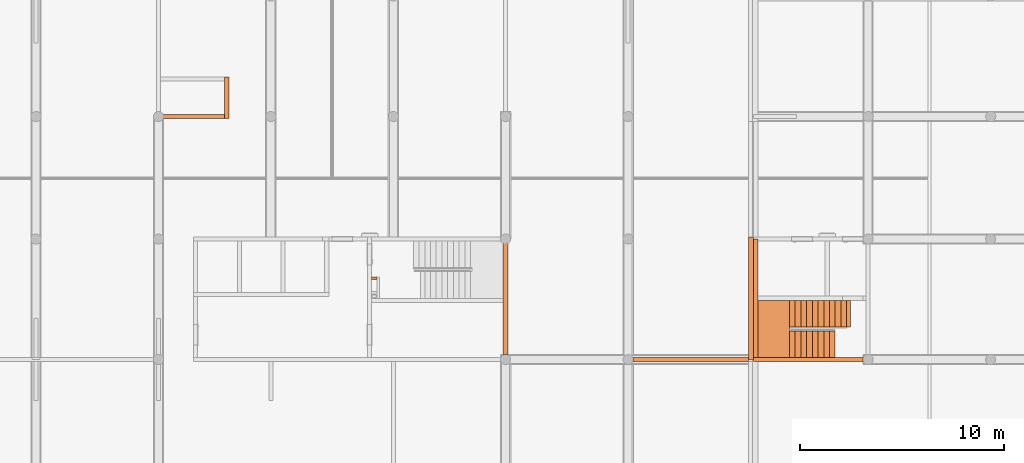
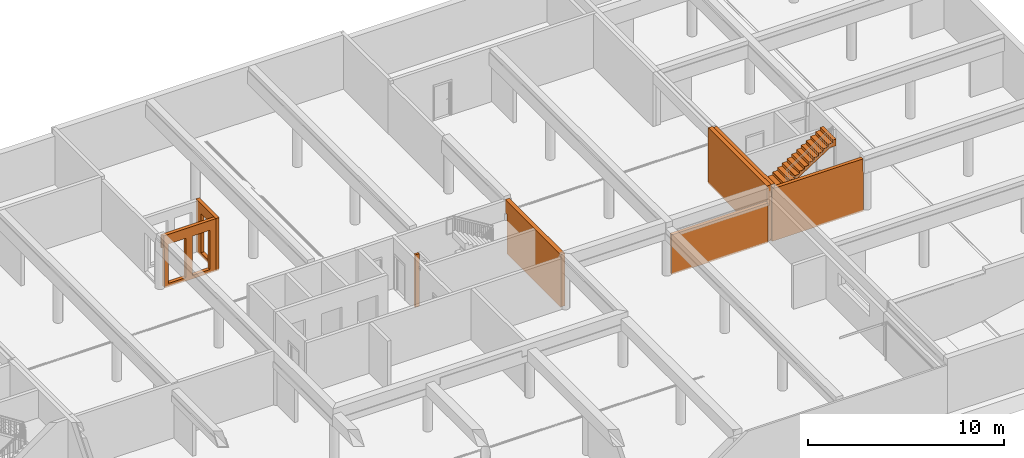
# One storey, part 23 of 25: 9 proxies, 3 openings.
"""IFC2X3 building model written with IfcOpenShell, lengths in millimetres."""

from ifc_helpers import new_model, entity, si_unit, converted_unit, derived_unit, money_unit, direction, frame, origin_with_axes, origin_2d_with_axis, place, context, subcontext, project, spatial, rectangle, extrude, faceted_brep, material, material_list, type_object, element, save


model = new_model("IFC2X3")

# Units and contexts
model_context = context("Model", 3, precision=0.01, world=origin_with_axes(), true_north=direction((0.34421633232, 0.938890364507)))
body_context = subcontext(model_context, "Body", "Model", "MODEL_VIEW")
ifc_project = project(units=[si_unit("LENGTHUNIT", "METRE", prefix="MILLI"), si_unit("AREAUNIT", "SQUARE_METRE"), si_unit("VOLUMEUNIT", "CUBIC_METRE"), converted_unit("PLANEANGLEUNIT", "DEGREE", entity("IfcPlaneAngleMeasure", 0.0174532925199), si_unit("PLANEANGLEUNIT", "RADIAN"), dimensions=[0, 0, 0, 0, 0, 0, 0]), si_unit("SOLIDANGLEUNIT", "STERADIAN"), money_unit("USD"), converted_unit("TIMEUNIT", "Year", entity("IfcTimeMeasure", 31556926.0), si_unit("TIMEUNIT", "SECOND"), dimensions=[0, 0, 1, 0, 0, 0, 0]), si_unit("MASSUNIT", "GRAM", prefix="KILO"), si_unit("THERMODYNAMICTEMPERATUREUNIT", "DEGREE_CELSIUS"), si_unit("LUMINOUSINTENSITYUNIT", "LUMEN"), si_unit("ENERGYUNIT", "JOULE", prefix="MEGA"), derived_unit("THERMALCONDUCTANCEUNIT", [(si_unit("POWERUNIT", "WATT"), 1), (si_unit("LENGTHUNIT", "METRE"), -1), (si_unit("THERMODYNAMICTEMPERATUREUNIT", "KELVIN"), -1)]), derived_unit("SPECIFICHEATCAPACITYUNIT", [(si_unit("ENERGYUNIT", "JOULE"), 1), (si_unit("MASSUNIT", "GRAM", prefix="KILO"), -1), (si_unit("THERMODYNAMICTEMPERATUREUNIT", "KELVIN"), -1)]), derived_unit("MASSDENSITYUNIT", [(si_unit("MASSUNIT", "GRAM", prefix="KILO"), 1), (si_unit("VOLUMEUNIT", "CUBIC_METRE"), -1)])], contexts=[model_context])

# Site, building, storey
site_placement = place(None, origin_with_axes())
site = spatial("IfcSite", under=ifc_project, at=site_placement, Name="USTRONIE MORSKIE", CompositionType="ELEMENT")
building_placement = place(site_placement, origin_with_axes())
building = spatial("IfcBuilding", under=site, at=building_placement, Name="Budynek", CompositionType="ELEMENT")
storey_placement = place(building_placement, frame((0.0, 0.0, -3600.0), z_axis=(0.0, 0.0, 1.0), x_axis=(1.0, 0.0, 0.0)))
storey = spatial("IfcBuildingStorey", under=building, at=storey_placement, Name="GARAZ", CompositionType="ELEMENT", Elevation=-3600.0)

# Proxies
ifc_material_1 = material(Name="Beton konstrukcyjny 01")
building_element_proxy_type_1 = type_object("IfcBuildingElementProxyType", Name="Beton konstrukcyjny 01 200", PredefinedType="NOTDEFINED")
proxy_1_placement = place(storey_placement, frame((408317.920919, 726901.199036, -100.0), z_axis=(0.0, 0.0, 1.0), x_axis=(-1.0, 0.0, 0.0)))
element("IfcBuildingElementProxy", 1, at=proxy_1_placement, inside=storey, type_object=building_element_proxy_type_1, material=ifc_material_1, Name="SW-01", context=body_context, shape_type="Brep", body=[
    faceted_brep([(5771.8359576, -100.0, 2470.00030619), (5765.0768448, -85.5050358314, 2470.00030619), (5753.79806175, -43.4120444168, 2470.00030619), (5750.0, 0.0, 2470.00030619), (5753.79806175, 43.4120444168, 2470.00030619), (5765.0768448, 85.5050358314, 2470.00030619), (5771.8359576, 100.0, 2470.00030619), (100.0, 100.0, 2470.0), (100.0, 0.0, 2470.0), (100.0, -100.0, 2470.0), (5765.0768448, -85.5050358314, 0.0), (5771.8359576, -100.0, 0.0), (5753.79806175, -43.4120444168, 0.0), (5750.0, 0.0, 0.0), (5753.79806175, 43.4120444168, 0.0), (5765.0768448, 85.5050358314, 0.0), (5771.8359576, 100.0, 0.0), (100.0, 100.0, 0.0), (100.0, 0.0, 0.0), (100.0, -100.0, 0.0)], [[[0, 1, 2, 3, 4, 5, 6, 7, 8, 9]], [[10, 1, 0, 11]], [[12, 2, 1, 10]], [[13, 3, 2, 12]], [[14, 4, 3, 13]], [[15, 5, 4, 14]], [[16, 6, 5, 15]], [[7, 6, 16, 17]], [[7, 17, 18, 8]], [[9, 8, 18, 19]], [[19, 11, 0, 9]], [[12, 10, 11, 19, 18, 17, 16, 15, 14, 13]]]),
])
proxy_2_placement = place(storey_placement, frame((414067.920919, 726901.199036, -100.0), z_axis=(0.0, 0.0, 1.0), x_axis=(-1.0, 0.0, 0.0)))
element("IfcBuildingElementProxy", 2, at=proxy_2_placement, inside=storey, type_object=building_element_proxy_type_1, material=ifc_material_1, Name="SW-01", context=body_context, shape_type="Brep", body=[
    faceted_brep([(250.0, 0.0, 2470.00030619), (246.201938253, -43.4120444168, 2470.00030619), (234.923155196, -85.5050358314, 2470.00030619), (228.1640424, -100.0, 2470.00030619), (249.999964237, -100.0, 2470.00030619), (246.201938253, -43.4120444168, 0.0), (250.0, 0.0, 0.0), (234.923155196, -85.5050358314, 0.0), (228.1640424, -100.0, 0.0), (5600.0, -100.0, 0.0), (5600.0, -100.0, 3270.0), (249.999964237, -100.0, 3270.0), (249.999964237, 100.0, 3270.0), (249.999964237, 100.0, 2470.00030619), (246.201938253, 43.4120444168, 2470.00030619), (246.201938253, 43.4120444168, 0.0), (234.923155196, 85.5050358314, 0.0), (228.1640424, 100.0, 0.0), (5600.0, 100.0, 0.0), (5600.0, 100.0, 3270.0), (228.1640424, 100.0, 2470.00030619), (234.923155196, 85.5050358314, 2470.00030619)], [[[0, 1, 2, 3, 4]], [[5, 1, 0, 6]], [[7, 2, 1, 5]], [[7, 8, 3, 2]], [[4, 3, 8, 9, 10, 11]], [[12, 13, 0, 4, 11]], [[6, 0, 14, 15]], [[15, 16, 17, 18, 9, 8, 7, 5, 6]], [[10, 9, 18, 19]], [[10, 19, 12, 11]], [[18, 17, 20, 13, 12, 19]], [[21, 14, 0, 13, 20]], [[15, 14, 21, 16]], [[16, 21, 20, 17]]]),
])

# Proxy, opening
proxy_3_placement = place(storey_placement, frame((382557.920919, 740541.199036, -100.0), z_axis=(0.0, 0.0, 1.0), x_axis=(0.0, -1.0, 0.0)))
proxy_3 = element("IfcBuildingElementProxy", 3, at=proxy_3_placement, inside=storey, type_object=building_element_proxy_type_1, material=ifc_material_1, Name="SW-01", context=body_context, shape_type="Brep", body=[
    faceted_brep([(1840.0, 0.0, 3270.0), (1840.0, 200.0, 3270.0), (-200.0, 200.0, 3270.0), (-200.0, 0.0, 3270.0), (1840.0, 0.0, 0.0), (1840.0, 200.0, 0.0), (-200.0, 200.0, 0.0), (-200.0, 0.0, 0.0)], [[[0, 1, 2, 3]], [[1, 0, 4, 5]], [[1, 5, 6, 2]], [[7, 3, 2, 6]], [[4, 0, 3, 7]], [[5, 4, 7, 6]]]),
])
opening_1_placement = place(proxy_3_placement, frame((820.0, 0.0, 220.0), z_axis=(0.0, 0.0, 1.0), x_axis=(1.0, 0.0, 0.0)))
element("IfcOpeningElement", 4, at=opening_1_placement, cuts=proxy_3, Name="xx", context=body_context, shape_type="SweptSolid", body=[
    extrude(rectangle(XDim=1020.0, YDim=2450.0, at=origin_2d_with_axis()), frame((0.0, 200.0, 1225.0), z_axis=(0.0, -1.0, 0.0), x_axis=(1.0, 0.0, 0.0)), (0.0, 0.0, -1.0), 200.0),
    extrude(rectangle(XDim=1020.0, YDim=2450.0, at=origin_2d_with_axis()), frame((0.0, 200.0, 1225.0), z_axis=(0.0, 1.0, 0.0), x_axis=(1.0, 0.0, 0.0)), (0.0, 0.0, -1.0), 200.0),
])

# Proxy
proxy_4_placement = place(storey_placement, frame((408567.920919, 726901.199036, -100.0), z_axis=(0.0, 0.0, 1.0), x_axis=(0.0, 1.0, 0.0)))
element("IfcBuildingElementProxy", 5, at=proxy_4_placement, inside=storey, type_object=building_element_proxy_type_1, material=ifc_material_1, Name="SW-01", context=body_context, shape_type="Brep", body=[
    faceted_brep([(100.0, -100.0, 3270.0), (100.0, -100.0, 0.0), (5800.0, -100.0, 0.0), (5800.0, -100.0, 3270.0), (5900.0, -100.0, 3270.0), (5900.0, -100.0, 3470.0), (0.0, -100.0, 3470.0), (0.0, -100.0, 3270.0), (100.0, 100.0, 3270.0), (100.0, 100.0, 0.0), (5800.0, 100.0, 0.0), (5800.0, 100.0, 3270.0), (5900.0, 100.0, 3270.0), (5900.0, 100.0, 3470.0), (0.0, 100.0, 3470.0), (0.0, 100.0, 3270.0)], [[[0, 1, 2, 3, 4, 5, 6, 7]], [[8, 9, 1, 0]], [[1, 9, 10, 2]], [[10, 11, 3, 2]], [[3, 11, 12, 4]], [[13, 5, 4, 12]], [[13, 14, 6, 5]], [[6, 14, 15, 7]], [[15, 8, 0, 7]], [[13, 12, 11, 10, 9, 8, 15, 14]]]),
])

# Proxy, openings
proxy_5_placement = place(storey_placement, frame((382557.920919, 738901.199036, -100.0), z_axis=(0.0, 0.0, 1.0), x_axis=(-1.0, 0.0, 0.0)))
proxy_5 = element("IfcBuildingElementProxy", 6, at=proxy_5_placement, inside=storey, type_object=building_element_proxy_type_1, material=ifc_material_1, Name="SW-02", context=body_context, shape_type="Brep", body=[
    faceted_brep([(3011.8359576, 200.0, 0.0), (3005.0768448, 185.505035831, 0.0), (2993.79806175, 143.412044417, 0.0), (2990.0, 100.0, 0.0), (2993.79806175, 56.5879555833, 0.0), (3005.0768448, 14.4949641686, 0.0), (3011.8359576, 0.0, 0.0), (0.0, 0.0, 0.0), (0.0, 200.0, 0.0), (3005.0768448, 185.505035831, 2470.00030619), (3011.8359576, 200.0, 2470.00030619), (2993.79806175, 143.412044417, 2470.00030619), (2990.0, 100.0, 2470.00030619), (2993.79806175, 56.5879555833, 2470.00030619), (3005.0768448, 14.4949641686, 2470.00030619), (3011.8359576, 0.0, 2470.00030619), (3140.0, 0.0, 2470.00030619), (3140.0, 0.0, 3270.0), (0.0, 0.0, 3270.0), (0.0, 200.0, 3270.0), (3040.0, 200.0, 2470.00030619), (3040.00000477, 200.0, 3270.0), (3040.00000447, 200.0, 3220.00030172), (3140.0, 100.0, 2470.00030619), (3040.0, 100.0, 2470.00030619), (3140.0, 100.0, 3270.0), (3040.00000358, 100.0, 3270.0), (3040.00000447, 100.0, 3220.00030172)], [[[0, 1, 2, 3, 4, 5, 6, 7, 8]], [[9, 1, 0, 10]], [[11, 2, 1, 9]], [[12, 3, 2, 11]], [[13, 4, 3, 12]], [[14, 5, 4, 13]], [[15, 6, 5, 14]], [[6, 15, 16, 17, 18, 7]], [[19, 8, 7, 18]], [[20, 10, 0, 8, 19, 21, 22]], [[23, 16, 15, 14, 13, 12, 11, 9, 10, 20, 24]], [[17, 16, 23, 25]], [[17, 25, 26, 21, 19, 18]], [[27, 22, 21, 26]], [[27, 24, 20, 22]], [[25, 23, 24, 27, 26]]]),
])
opening_2_placement = place(proxy_5_placement, frame((860.0, 0.0, 220.0), z_axis=(0.0, 0.0, 1.0), x_axis=(1.0, 0.0, 0.0)))
element("IfcOpeningElement", 7, at=opening_2_placement, cuts=proxy_5, Name="xx", context=body_context, shape_type="SweptSolid", body=[
    extrude(rectangle(XDim=1020.0, YDim=2450.0, at=origin_2d_with_axis()), frame((0.0, 200.0, 1225.0), z_axis=(0.0, -1.0, 0.0), x_axis=(1.0, 0.0, 0.0)), (0.0, 0.0, -1.0), 200.0),
    extrude(rectangle(XDim=1020.0, YDim=2450.0, at=origin_2d_with_axis()), frame((0.0, 200.0, 1225.0), z_axis=(0.0, 1.0, 0.0), x_axis=(1.0, 0.0, 0.0)), (0.0, 0.0, -1.0), 200.0),
])
opening_3_placement = place(proxy_5_placement, frame((2280.0, 0.0, 220.0), z_axis=(0.0, 0.0, 1.0), x_axis=(1.0, 0.0, 0.0)))
element("IfcOpeningElement", 8, at=opening_3_placement, cuts=proxy_5, Name="xx", context=body_context, shape_type="SweptSolid", body=[
    extrude(rectangle(XDim=1020.0, YDim=2450.0, at=origin_2d_with_axis()), frame((0.0, 200.0, 1225.0), z_axis=(0.0, -1.0, 0.0), x_axis=(1.0, 0.0, 0.0)), (0.0, 0.0, -1.0), 200.0),
    extrude(rectangle(XDim=1020.0, YDim=2450.0, at=origin_2d_with_axis()), frame((0.0, 200.0, 1225.0), z_axis=(0.0, 1.0, 0.0), x_axis=(1.0, 0.0, 0.0)), (0.0, 0.0, -1.0), 200.0),
])

# Proxies
ifc_material_2 = material(Name="Płyty styropianowe twarde")
ifc_material_list_1 = material_list([ifc_material_1, ifc_material_2])
building_element_proxy_type_2 = type_object("IfcBuildingElementProxyType", Name="20+5 250", PredefinedType="NOTDEFINED")
proxy_6_placement = place(storey_placement, frame((408317.920919, 726901.199036, -100.0), z_axis=(0.0, 0.0, 1.0), x_axis=(0.0, 1.0, 0.0)))
element("IfcBuildingElementProxy", 9, at=proxy_6_placement, inside=storey, type_object=building_element_proxy_type_2, material=ifc_material_list_1, Name="Œciana-007", context=body_context, shape_type="Brep", body=[
    faceted_brep([(2508.94521694, 100.000000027, 3470.0), (100.0, 99.9686498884, 3470.0), (100.0, 100.0, 3470.0), (0.0, 100.0, 3470.0), (0.0, -100.0, 3470.0), (6000.0, -100.0, 3470.0), (6000.0, 100.0, 3470.0), (100.0, 99.9686498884, 3270.0), (2508.94316154, 100.0, 3270.0), (100.0, 100.0, 3270.0), (6000.0, 100.0, 0.0), (0.0, 100.0, 0.0), (0.0, -100.0, 0.0), (6000.0, -100.0, 0.0)], [[[0, 1, 2, 3, 4, 5, 6]], [[7, 1, 0, 8]], [[9, 2, 1, 7]], [[9, 8, 0, 6, 10, 11, 3, 2]], [[11, 12, 4, 3]], [[13, 5, 4, 12]], [[10, 6, 5, 13]], [[7, 8, 9]], [[10, 13, 12, 11]]]),
    faceted_brep([(0.0, -150.0, 3470.0), (0.0, -150.0, 100.0), (6000.0, -150.0, 100.0), (6000.0, -150.0, 3470.0), (0.0, -100.0, 3470.0), (0.0, -100.0, 100.0), (6000.0, -100.0, 100.0), (6000.0, -100.0, 3470.0)], [[[0, 1, 2, 3]], [[4, 5, 1, 0]], [[5, 6, 2, 1]], [[3, 2, 6, 7]], [[7, 4, 0, 3]], [[7, 6, 5, 4]]]),
])
ifc_material_3 = material(Name="Bloczki silikatowe")
building_element_proxy_type_3 = type_object("IfcBuildingElementProxyType", Name="Bloczki silikatowe 120", PredefinedType="NOTDEFINED")
proxy_7_placement = place(storey_placement, frame((389757.920919, 730821.199036, -100.0), z_axis=(0.0, 0.0, 1.0), x_axis=(1.0, 0.0, 0.0)))
element("IfcBuildingElementProxy", 10, at=proxy_7_placement, inside=storey, type_object=building_element_proxy_type_3, material=ifc_material_3, Name="SW-04", context=body_context, shape_type="Brep", body=[
    faceted_brep([(250.0, 120.0, 0.0), (250.0, 0.0, 0.0), (0.0, 0.0, 0.0), (0.0, 120.0, 0.0), (250.0, 120.0, 3270.0), (250.0, 0.0, 3270.0), (0.0, 0.0, 3270.0), (0.0, 120.0, 3270.0)], [[[0, 1, 2, 3]], [[1, 0, 4, 5]], [[1, 5, 6, 2]], [[7, 3, 2, 6]], [[4, 0, 3, 7]], [[5, 4, 7, 6]]]),
])
building_element_proxy_type_4 = type_object("IfcBuildingElementProxyType", Name="Beton konstrukcyjny 01 250", PredefinedType="NOTDEFINED")
proxy_8_placement = place(storey_placement, frame((396317.920919, 726901.199036, -100.0), z_axis=(0.0, 0.0, 1.0), x_axis=(0.0, 1.0, 0.0)))
element("IfcBuildingElementProxy", 11, at=proxy_8_placement, inside=storey, type_object=building_element_proxy_type_4, material=ifc_material_1, Name="Œciana-008", context=body_context, shape_type="Brep", body=[
    faceted_brep([(216.506350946, -125.0, 0.0), (5683.49364905, -125.0, 0.0), (5683.49364905, -125.0, 2470.00030619), (5900.0, -125.0, 2470.00030619), (5900.0, -125.0, 3270.0), (216.506350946, -125.0, 3270.0), (5653.79806175, -43.4120444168, 0.0), (5665.0768448, -85.5050358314, 0.0), (234.923155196, -85.5050358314, 0.0), (246.201938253, -43.4120444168, 0.0), (250.0, 0.0, 0.0), (246.201938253, 43.4120444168, 0.0), (234.923155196, 85.5050358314, 0.0), (216.506350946, 125.0, 0.0), (5683.49364905, 125.0, 0.0), (5665.0768448, 85.5050358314, 0.0), (5653.79806175, 43.4120444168, 0.0), (5650.0, 0.0, 0.0), (5665.0768448, -85.5050358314, 2470.00030619), (5683.49364905, 125.0, 2470.00030619), (5900.0, 125.0, 2470.00030619), (5653.79806175, -43.4120444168, 2470.00030619), (5650.0, 0.0, 2470.00030619), (5653.79806175, 43.4120444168, 2470.00030619), (5665.0768448, 85.5050358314, 2470.00030619), (5900.0, 125.0, 3270.0), (250.0, 0.0, 3270.0), (246.201938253, -43.4120444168, 3270.0), (234.923155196, -85.5050358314, 3270.0), (216.506350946, 125.0, 3270.0), (234.923155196, 85.5050358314, 3270.0), (246.201938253, 43.4120444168, 3270.0)], [[[0, 1, 2, 3, 4, 5]], [[6, 7, 1, 0, 8, 9, 10, 11, 12, 13, 14, 15, 16, 17]], [[2, 1, 7, 18]], [[19, 20, 3, 2, 18, 21, 22, 23, 24]], [[4, 3, 20, 25]], [[26, 27, 28, 5, 4, 25, 29, 30, 31]], [[0, 5, 28, 8]], [[18, 7, 6, 21]], [[8, 28, 27, 9]], [[9, 27, 26, 10]], [[10, 26, 31, 11]], [[11, 31, 30, 12]], [[12, 30, 29, 13]], [[20, 19, 14, 13, 29, 25]], [[24, 15, 14, 19]], [[23, 16, 15, 24]], [[22, 17, 16, 23]], [[21, 6, 17, 22]]]),
])
ifc_material_4 = material(Name="Beton konstrukcyjny B25")
ifc_material_5 = material(Name="Płytki podłogowe")
ifc_material_list_2 = material_list([ifc_material_4, ifc_material_4, ifc_material_4, ifc_material_5, ifc_material_5, ifc_material_5, ifc_material_5, ifc_material_5, ifc_material_5, ifc_material_5, ifc_material_5, ifc_material_5, ifc_material_5, ifc_material_5, ifc_material_5, ifc_material_5, ifc_material_5, ifc_material_5, ifc_material_5, ifc_material_5, ifc_material_5, ifc_material_5])
building_element_proxy_type_5 = type_object("IfcBuildingElementProxyType", Name="Typ schodów", PredefinedType="NOTDEFINED")
proxy_9_placement = place(storey_placement, frame((412457.920919, 727001.199036, 0.0), z_axis=(0.0, 0.0, 1.0), x_axis=(-1.0, 0.0, 0.0)))
element("IfcBuildingElementProxy", 12, at=proxy_9_placement, inside=storey, type_object=building_element_proxy_type_5, material=ifc_material_list_2, Name="SCH2", context=body_context, shape_type="Brep", body=[
    faceted_brep([(2240.0, -1299.99999404, 1425.0), (2240.0, 0.0, 1425.0), (1960.0, 0.0, 1425.0), (1960.0, -1300.0, 1425.0), (2240.0, -1299.99999404, 1445.0), (2240.0, 0.0, 1445.0), (2240.0, 0.0, 1282.3429983), (2146.66666567, 0.0, 1222.34299732), (2053.33333284, 0.0, 1162.34299733), (1960.0, 0.0, 1102.34299738), (1866.66666667, 0.0, 1042.34299733), (1773.33333333, 0.0, 982.342997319), (1680.0, 0.0, 922.342997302), (1586.66666667, 0.0, 862.342997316), (1493.33333333, 0.0, 802.342997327), (1400.0, 0.0, 742.342997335), (1306.66666667, 0.0, 682.342997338), (1213.33333333, 0.0, 622.342997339), (1120.0, 0.0, 562.342997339), (1026.66666667, 0.0, 502.342997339), (933.333333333, 0.0, 442.342997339), (840.0, 0.0, 382.342997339), (746.666666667, 0.0, 322.342997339), (653.333333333, 0.0, 262.342997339), (560.0, 0.0, 202.342997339), (466.666666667, 0.0, 142.342997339), (373.333333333, 0.0, 82.3429973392), (280.0, 0.0, 22.3429973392), (250.0, 0.0, 3.05728305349), (250.0, 0.0, -100.0), (0.0, 0.0, -100.0), (0.0, 0.0, 165.0), (280.0, 0.0, 165.0), (280.0, 0.0, 345.0), (560.0, 0.0, 345.0), (560.0, 0.0, 525.0), (840.0, 0.0, 525.0), (840.0, 0.0, 705.0), (1120.0, 0.0, 705.0), (1120.0, 0.0, 885.0), (1400.0, 0.0, 885.0), (1400.0, 0.0, 1065.0), (1680.0, 0.0, 1065.0), (1680.0, 0.0, 1245.0), (1960.0, 0.0, 1245.0), (2493.02200265, 0.0, 1445.0), (1960.0, -1300.0, 1245.0), (1680.0, -1300.0, 1245.0), (1680.0, -1300.0, 1065.0), (1400.0, -1300.0, 1065.0), (1400.0, -1300.0, 885.0), (1120.0, -1300.0, 885.0), (1120.0, -1300.0, 705.0), (840.0, -1300.0, 705.0), (840.0, -1300.0, 525.0), (560.0, -1300.0, 525.0), (560.0, -1300.0, 345.0), (280.0, -1300.0, 345.0), (280.0, -1300.0, 165.0), (0.0, -1300.0, 165.0), (0.0, -1300.0, -100.0), (250.0, -1300.0, -100.0), (250.0, -1300.0, 3.05728305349), (280.0, -1300.0, 22.3429973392), (373.333333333, -1300.0, 82.3429973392), (466.666666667, -1300.0, 142.342997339), (560.0, -1300.0, 202.342997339), (653.333333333, -1300.0, 262.342997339), (746.666666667, -1300.0, 322.342997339), (840.0, -1300.0, 382.342997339), (933.333333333, -1300.0, 442.342997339), (1026.66666667, -1300.0, 502.342997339), (1120.0, -1300.0, 562.342997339), (1213.33333333, -1300.0, 622.342997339), (1306.66666667, -1300.0, 682.342997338), (1400.0, -1300.0, 742.342997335), (1493.33333333, -1300.0, 802.342997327), (1586.66666667, -1300.0, 862.342997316), (1680.0, -1300.0, 922.342997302), (1773.33333333, -1300.0, 982.342997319), (1866.66666667, -1300.0, 1042.34299733), (1960.0, -1300.0, 1102.34299738), (2053.33333284, -1300.0, 1162.34299733), (2146.66666567, -1300.0, 1222.34299732), (2240.0, -1299.99999404, 1282.3429983), (2493.02200265, -1299.99999404, 1445.0)], [[[0, 1, 2, 3]], [[1, 0, 4, 5]], [[6, 7, 8, 9, 10, 11, 12, 13, 14, 15, 16, 17, 18, 19, 20, 21, 22, 23, 24, 25, 26, 27, 28, 29, 30, 31, 32, 33, 34, 35, 36, 37, 38, 39, 40, 41, 42, 43, 44, 2, 1, 5, 45]], [[46, 3, 2, 44]], [[0, 3, 46, 47, 48, 49, 50, 51, 52, 53, 54, 55, 56, 57, 58, 59, 60, 61, 62, 63, 64, 65, 66, 67, 68, 69, 70, 71, 72, 73, 74, 75, 76, 77, 78, 79, 80, 81, 82, 83, 84, 85, 4]], [[45, 5, 4, 85]], [[84, 83, 7, 6, 45, 85]], [[83, 82, 8, 7]], [[82, 81, 9, 8]], [[81, 80, 10, 9]], [[80, 79, 11, 10]], [[79, 78, 12, 11]], [[78, 77, 13, 12]], [[77, 76, 14, 13]], [[76, 75, 15, 14]], [[75, 74, 16, 15]], [[74, 73, 17, 16]], [[73, 72, 18, 17]], [[72, 71, 19, 18]], [[71, 70, 20, 19]], [[70, 69, 21, 20]], [[69, 68, 22, 21]], [[68, 67, 23, 22]], [[67, 66, 24, 23]], [[66, 65, 25, 24]], [[65, 64, 26, 25]], [[64, 63, 27, 26]], [[63, 62, 28, 27]], [[29, 28, 62, 61]], [[29, 61, 60, 30]], [[59, 31, 30, 60]], [[32, 31, 59, 58]], [[58, 57, 33, 32]], [[34, 33, 57, 56]], [[56, 55, 35, 34]], [[36, 35, 55, 54]], [[54, 53, 37, 36]], [[38, 37, 53, 52]], [[52, 51, 39, 38]], [[40, 39, 51, 50]], [[50, 49, 41, 40]], [[42, 41, 49, 48]], [[48, 47, 43, 42]], [[44, 43, 47, 46]]]),
    faceted_brep([(2266.97798798, -1500.00000596, 1605.0), (2266.97798798, -2800.0, 1605.0), (3789.99998808, -2800.0, 1605.0), (3789.99998808, 0.0, 1605.0), (2240.0, 0.0, 1605.0), (2240.0, -1299.99999404, 1605.0), (2240.0, -1500.00000596, 1605.0), (2266.97798798, -1500.00000596, 1445.0), (2266.97798798, -2800.0, 1445.0), (3789.99998808, -2800.0, 1445.0), (3789.99998808, 0.0, 1445.0), (2240.0, 0.0, 1445.0), (2240.0, -1299.99999404, 1445.0), (2240.0, -1500.00000596, 1445.0)], [[[0, 1, 2, 3, 4, 5, 6]], [[1, 0, 7, 8]], [[1, 8, 9, 2]], [[2, 9, 10, 3]], [[3, 10, 11, 4]], [[4, 11, 12, 5]], [[13, 6, 5, 12]], [[0, 6, 13, 7]], [[7, 13, 12, 11, 10, 9, 8]]]),
    faceted_brep([(-373.333333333, -2800.0, 3142.34299734), (-416.355337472, -2800.0, 3170.0), (-416.355337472, -1500.0, 3170.0), (-373.333333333, -1500.0, 3142.34299734), (-760.0, -2800.0, 3170.0), (-280.0, -2800.0, 3082.34299734), (-186.666666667, -2800.0, 3022.34299734), (-93.3333333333, -2800.0, 2962.34299734), (0.0, -2800.0, 2902.34299734), (93.3333333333, -2800.0, 2842.34299734), (186.666666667, -2800.0, 2782.34299734), (280.0, -2800.0, 2722.34299734), (373.333333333, -2800.0, 2662.34299734), (466.666666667, -2800.0, 2602.34299734), (560.0, -2800.0, 2542.34299734), (653.333333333, -2800.0, 2482.34299734), (746.666666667, -2800.0, 2422.34299734), (840.0, -2800.0, 2362.34299734), (933.333333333, -2800.0, 2302.34299734), (1026.66666667, -2800.0, 2242.34299734), (1120.0, -2800.0, 2182.34299734), (1213.33333333, -2800.0, 2122.34299734), (1306.66666667, -2800.0, 2062.34299734), (1400.0, -2800.0, 2002.34299734), (1493.33333333, -2800.0, 1942.34299734), (1586.66666667, -2800.0, 1882.34299733), (1680.0, -2800.0, 1822.34299732), (1773.33333333, -2800.0, 1762.34299727), (1866.66666667, -2800.0, 1702.34299721), (1960.0, -2800.0, 1642.34299712), (2053.33333284, -2800.0, 1582.34299722), (2146.66666567, -2800.0, 1522.34299729), (2240.0, -2800.0, 1462.34299638), (2266.97798798, -2800.0, 1445.00000411), (2266.97798798, -2800.0, 1605.0), (2240.0, -2800.0, 1605.0), (2239.99999851, -2800.0, 1785.0), (1960.0, -2800.0, 1785.0), (1960.0, -2800.0, 1965.0), (1680.0, -2800.0, 1965.0), (1680.0, -2800.0, 2145.0), (1400.0, -2800.0, 2145.0), (1400.0, -2800.0, 2325.0), (1120.0, -2800.0, 2325.0), (1120.0, -2800.0, 2505.0), (840.0, -2800.0, 2505.0), (840.0, -2800.0, 2685.0), (560.0, -2800.0, 2685.0), (560.0, -2800.0, 2865.0), (280.0, -2800.0, 2865.0), (280.0, -2800.0, 3045.0), (0.0, -2800.0, 3045.0), (0.0, -2800.0, 3225.0), (-280.0, -2800.0, 3225.0), (-280.0, -2800.0, 3405.0), (-560.0, -2800.0, 3405.0), (-560.0, -2800.0, 3585.0), (-760.0, -2800.0, 3585.0), (-760.0, -1500.0, 3170.0), (-760.0, -1500.0, 3585.0), (-560.0, -1500.0, 3585.0), (-560.0, -1500.0, 3405.0), (-280.0, -1500.0, 3405.0), (-280.0, -1500.0, 3225.0), (0.0, -1500.0, 3225.0), (0.0, -1500.0, 3045.0), (280.0, -1500.0, 3045.0), (280.0, -1500.0, 2865.0), (560.0, -1500.0, 2865.0), (560.0, -1500.0, 2685.0), (840.0, -1500.0, 2685.0), (840.0, -1500.0, 2505.0), (1120.0, -1500.0, 2505.0), (1120.0, -1500.0, 2325.0), (1400.0, -1500.0, 2325.0), (1400.0, -1500.0, 2145.0), (1680.0, -1500.0, 2145.0), (1680.0, -1500.0, 1965.0), (1960.0, -1500.0, 1965.0), (1960.0, -1500.0, 1785.0), (2239.99999851, -1500.0, 1785.0), (2240.0, -1500.00000596, 1605.0), (2266.97798798, -1500.00000596, 1605.0), (2266.97798798, -1500.00000596, 1445.00000411), (2240.0, -1500.00000596, 1462.34299638), (2146.66666567, -1500.0, 1522.34299729), (2053.33333284, -1500.0, 1582.34299722), (1960.0, -1500.0, 1642.34299712), (1866.66666667, -1500.0, 1702.34299721), (1773.33333333, -1500.0, 1762.34299727), (1680.0, -1500.0, 1822.34299732), (1586.66666667, -1500.0, 1882.34299733), (1493.33333333, -1500.0, 1942.34299734), (1400.0, -1500.0, 2002.34299734), (1306.66666667, -1500.0, 2062.34299734), (1213.33333333, -1500.0, 2122.34299734), (1120.0, -1500.0, 2182.34299734), (1026.66666667, -1500.0, 2242.34299734), (933.333333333, -1500.0, 2302.34299734), (840.0, -1500.0, 2362.34299734), (746.666666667, -1500.0, 2422.34299734), (653.333333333, -1500.0, 2482.34299734), (560.0, -1500.0, 2542.34299734), (466.666666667, -1500.0, 2602.34299734), (373.333333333, -1500.0, 2662.34299734), (280.0, -1500.0, 2722.34299734), (186.666666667, -1500.0, 2782.34299734), (93.3333333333, -1500.0, 2842.34299734), (0.0, -1500.0, 2902.34299734), (-93.3333333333, -1500.0, 2962.34299734), (-186.666666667, -1500.0, 3022.34299734), (-280.0, -1500.0, 3082.34299734)], [[[0, 1, 2, 3]], [[4, 1, 0, 5, 6, 7, 8, 9, 10, 11, 12, 13, 14, 15, 16, 17, 18, 19, 20, 21, 22, 23, 24, 25, 26, 27, 28, 29, 30, 31, 32, 33, 34, 35, 36, 37, 38, 39, 40, 41, 42, 43, 44, 45, 46, 47, 48, 49, 50, 51, 52, 53, 54, 55, 56, 57]], [[58, 2, 1, 4]], [[3, 2, 58, 59, 60, 61, 62, 63, 64, 65, 66, 67, 68, 69, 70, 71, 72, 73, 74, 75, 76, 77, 78, 79, 80, 81, 82, 83, 84, 85, 86, 87, 88, 89, 90, 91, 92, 93, 94, 95, 96, 97, 98, 99, 100, 101, 102, 103, 104, 105, 106, 107, 108, 109, 110, 111]], [[111, 5, 0, 3]], [[110, 6, 5, 111]], [[109, 7, 6, 110]], [[108, 8, 7, 109]], [[107, 9, 8, 108]], [[106, 10, 9, 107]], [[105, 11, 10, 106]], [[104, 12, 11, 105]], [[103, 13, 12, 104]], [[102, 14, 13, 103]], [[101, 15, 14, 102]], [[100, 16, 15, 101]], [[99, 17, 16, 100]], [[98, 18, 17, 99]], [[97, 19, 18, 98]], [[96, 20, 19, 97]], [[95, 21, 20, 96]], [[94, 22, 21, 95]], [[93, 23, 22, 94]], [[92, 24, 23, 93]], [[91, 25, 24, 92]], [[90, 26, 25, 91]], [[89, 27, 26, 90]], [[88, 28, 27, 89]], [[87, 29, 28, 88]], [[86, 30, 29, 87]], [[85, 31, 30, 86]], [[31, 85, 84, 32]], [[83, 33, 32, 84]], [[34, 33, 83, 82]], [[34, 82, 81, 35]], [[80, 36, 35, 81]], [[79, 37, 36, 80]], [[37, 79, 78, 38]], [[77, 39, 38, 78]], [[39, 77, 76, 40]], [[75, 41, 40, 76]], [[41, 75, 74, 42]], [[73, 43, 42, 74]], [[43, 73, 72, 44]], [[71, 45, 44, 72]], [[45, 71, 70, 46]], [[69, 47, 46, 70]], [[47, 69, 68, 48]], [[67, 49, 48, 68]], [[49, 67, 66, 50]], [[65, 51, 50, 66]], [[51, 65, 64, 52]], [[63, 53, 52, 64]], [[53, 63, 62, 54]], [[62, 61, 55, 54]], [[56, 55, 61, 60]], [[56, 60, 59, 57]], [[4, 57, 59, 58]]]),
    faceted_brep([(0.0, 0.0, 170.0), (0.0, -1300.0, 170.0), (0.0, -1300.0, 180.0), (0.0, 0.0, 180.0), (280.0, 0.0, 170.0), (280.0, -1300.0, 170.0), (280.0, -1300.0, 180.0), (280.0, 0.0, 180.0)], [[[0, 1, 2, 3]], [[0, 4, 5, 1]], [[1, 5, 6, 2]], [[3, 2, 6, 7]], [[4, 0, 3, 7]], [[5, 4, 7, 6]]]),
    faceted_brep([(280.0, 0.0, 350.0), (280.0, -1300.0, 350.0), (280.0, -1300.0, 360.0), (280.0, 0.0, 360.0), (560.0, 0.0, 350.0), (560.0, -1300.0, 350.0), (560.0, -1300.0, 360.0), (560.0, 0.0, 360.0)], [[[0, 1, 2, 3]], [[0, 4, 5, 1]], [[1, 5, 6, 2]], [[3, 2, 6, 7]], [[4, 0, 3, 7]], [[5, 4, 7, 6]]]),
    faceted_brep([(560.0, 0.0, 530.0), (560.0, -1300.0, 530.0), (560.0, -1300.0, 540.0), (560.0, 0.0, 540.0), (840.0, 0.0, 530.0), (840.0, -1300.0, 530.0), (840.0, -1300.0, 540.0), (840.0, 0.0, 540.0)], [[[0, 1, 2, 3]], [[0, 4, 5, 1]], [[1, 5, 6, 2]], [[3, 2, 6, 7]], [[4, 0, 3, 7]], [[5, 4, 7, 6]]]),
    faceted_brep([(840.0, 0.0, 710.0), (840.0, -1300.0, 710.0), (840.0, -1300.0, 720.0), (840.0, 0.0, 720.0), (1120.0, 0.0, 710.0), (1120.0, -1300.0, 710.0), (1120.0, -1300.0, 720.0), (1120.0, 0.0, 720.0)], [[[0, 1, 2, 3]], [[0, 4, 5, 1]], [[1, 5, 6, 2]], [[3, 2, 6, 7]], [[4, 0, 3, 7]], [[5, 4, 7, 6]]]),
    faceted_brep([(1120.0, 0.0, 890.0), (1120.0, -1300.0, 890.0), (1120.0, -1300.0, 900.0), (1120.0, 0.0, 900.0), (1400.0, 0.0, 890.0), (1400.0, -1300.0, 890.0), (1400.0, -1300.0, 900.0), (1400.0, 0.0, 900.0)], [[[0, 1, 2, 3]], [[0, 4, 5, 1]], [[1, 5, 6, 2]], [[3, 2, 6, 7]], [[4, 0, 3, 7]], [[5, 4, 7, 6]]]),
    faceted_brep([(1400.0, 0.0, 1070.0), (1400.0, -1300.0, 1070.0), (1400.0, -1300.0, 1080.0), (1400.0, 0.0, 1080.0), (1680.0, 0.0, 1070.0), (1680.0, -1300.0, 1070.0), (1680.0, -1300.0, 1080.0), (1680.0, 0.0, 1080.0)], [[[0, 1, 2, 3]], [[0, 4, 5, 1]], [[1, 5, 6, 2]], [[3, 2, 6, 7]], [[4, 0, 3, 7]], [[5, 4, 7, 6]]]),
    faceted_brep([(1680.0, 0.0, 1250.0), (1680.0, -1300.0, 1250.0), (1680.0, -1300.0, 1260.0), (1680.0, 0.0, 1260.0), (1960.0, 0.0, 1250.0), (1960.0, -1300.0, 1250.0), (1960.0, -1300.0, 1260.0), (1960.0, 0.0, 1260.0)], [[[0, 1, 2, 3]], [[0, 4, 5, 1]], [[1, 5, 6, 2]], [[3, 2, 6, 7]], [[4, 0, 3, 7]], [[5, 4, 7, 6]]]),
    faceted_brep([(1960.0, -1300.0, 1430.0), (2239.99999851, -1300.0, 1430.0), (2239.99999851, -1300.0, 1440.0), (1960.0, -1300.0, 1440.0), (1960.0, 0.0, 1430.0), (2239.99999851, 0.0, 1430.0), (2239.99999851, 0.0, 1440.0), (1960.0, 0.0, 1440.0)], [[[0, 1, 2, 3]], [[0, 4, 5, 1]], [[1, 5, 6, 2]], [[3, 2, 6, 7]], [[4, 0, 3, 7]], [[5, 4, 7, 6]]]),
    faceted_brep([(3789.99998808, 0.0, 1610.0), (2240.0, 0.0, 1610.0), (2240.0, 0.0, 1620.0), (3789.99998808, 0.0, 1620.0), (3789.99998808, -2800.0, 1610.0), (2240.0, -2800.0, 1610.0), (2240.0, -1500.00000596, 1610.0), (2240.0, -1299.99999404, 1610.0), (2240.0, -1299.99999404, 1620.0), (2240.0, -1500.00000596, 1620.0), (2240.0, -2800.0, 1620.0), (3789.99998808, -2800.0, 1620.0)], [[[0, 1, 2, 3]], [[0, 4, 5, 6, 7, 1]], [[1, 7, 8, 2]], [[3, 2, 8, 9, 10, 11]], [[4, 0, 3, 11]], [[5, 4, 11, 10]], [[6, 5, 10, 9]], [[7, 6, 9, 8]]]),
    faceted_brep([(1960.0, -2800.0, 1790.0), (2239.99999851, -2800.0, 1790.0), (2239.99999851, -2800.0, 1800.0), (1960.0, -2800.0, 1800.0), (1960.0, -1500.0, 1790.0), (2239.99999851, -1500.0, 1790.0), (2239.99999851, -1500.0, 1800.0), (1960.0, -1500.0, 1800.0)], [[[0, 1, 2, 3]], [[0, 4, 5, 1]], [[1, 5, 6, 2]], [[3, 2, 6, 7]], [[4, 0, 3, 7]], [[5, 4, 7, 6]]]),
    faceted_brep([(1960.0, -2800.0, 1970.0), (1960.0, -1500.0, 1970.0), (1960.0, -1500.0, 1980.0), (1960.0, -2800.0, 1980.0), (1680.0, -2800.0, 1970.0), (1680.0, -1500.0, 1970.0), (1680.0, -1500.0, 1980.0), (1680.0, -2800.0, 1980.0)], [[[0, 1, 2, 3]], [[0, 4, 5, 1]], [[1, 5, 6, 2]], [[3, 2, 6, 7]], [[4, 0, 3, 7]], [[5, 4, 7, 6]]]),
    faceted_brep([(1680.0, -2800.0, 2150.0), (1680.0, -1500.0, 2150.0), (1680.0, -1500.0, 2160.0), (1680.0, -2800.0, 2160.0), (1400.0, -2800.0, 2150.0), (1400.0, -1500.0, 2150.0), (1400.0, -1500.0, 2160.0), (1400.0, -2800.0, 2160.0)], [[[0, 1, 2, 3]], [[0, 4, 5, 1]], [[1, 5, 6, 2]], [[3, 2, 6, 7]], [[4, 0, 3, 7]], [[5, 4, 7, 6]]]),
    faceted_brep([(1400.0, -2800.0, 2330.0), (1400.0, -1500.0, 2330.0), (1400.0, -1500.0, 2340.0), (1400.0, -2800.0, 2340.0), (1120.0, -2800.0, 2330.0), (1120.0, -1500.0, 2330.0), (1120.0, -1500.0, 2340.0), (1120.0, -2800.0, 2340.0)], [[[0, 1, 2, 3]], [[0, 4, 5, 1]], [[1, 5, 6, 2]], [[3, 2, 6, 7]], [[4, 0, 3, 7]], [[5, 4, 7, 6]]]),
    faceted_brep([(1120.0, -2800.0, 2510.0), (1120.0, -1500.0, 2510.0), (1120.0, -1500.0, 2520.0), (1120.0, -2800.0, 2520.0), (840.0, -2800.0, 2510.0), (840.0, -1500.0, 2510.0), (840.0, -1500.0, 2520.0), (840.0, -2800.0, 2520.0)], [[[0, 1, 2, 3]], [[0, 4, 5, 1]], [[1, 5, 6, 2]], [[3, 2, 6, 7]], [[4, 0, 3, 7]], [[5, 4, 7, 6]]]),
    faceted_brep([(840.0, -2800.0, 2690.0), (840.0, -1500.0, 2690.0), (840.0, -1500.0, 2700.0), (840.0, -2800.0, 2700.0), (560.0, -2800.0, 2690.0), (560.0, -1500.0, 2690.0), (560.0, -1500.0, 2700.0), (560.0, -2800.0, 2700.0)], [[[0, 1, 2, 3]], [[0, 4, 5, 1]], [[1, 5, 6, 2]], [[3, 2, 6, 7]], [[4, 0, 3, 7]], [[5, 4, 7, 6]]]),
    faceted_brep([(560.0, -2800.0, 2870.0), (560.0, -1500.0, 2870.0), (560.0, -1500.0, 2880.0), (560.0, -2800.0, 2880.0), (280.0, -2800.0, 2870.0), (280.0, -1500.0, 2870.0), (280.0, -1500.0, 2880.0), (280.0, -2800.0, 2880.0)], [[[0, 1, 2, 3]], [[0, 4, 5, 1]], [[1, 5, 6, 2]], [[3, 2, 6, 7]], [[4, 0, 3, 7]], [[5, 4, 7, 6]]]),
    faceted_brep([(280.0, -2800.0, 3050.0), (280.0, -1500.0, 3050.0), (280.0, -1500.0, 3060.0), (280.0, -2800.0, 3060.0), (0.0, -2800.0, 3050.0), (0.0, -1500.0, 3050.0), (0.0, -1500.0, 3060.0), (0.0, -2800.0, 3060.0)], [[[0, 1, 2, 3]], [[0, 4, 5, 1]], [[1, 5, 6, 2]], [[3, 2, 6, 7]], [[4, 0, 3, 7]], [[5, 4, 7, 6]]]),
    faceted_brep([(0.0, -2800.0, 3230.0), (0.0, -1500.0, 3230.0), (0.0, -1500.0, 3240.0), (0.0, -2800.0, 3240.0), (-280.0, -2800.0, 3230.0), (-280.0, -1500.0, 3230.0), (-280.0, -1500.0, 3240.0), (-280.0, -2800.0, 3240.0)], [[[0, 1, 2, 3]], [[0, 4, 5, 1]], [[1, 5, 6, 2]], [[3, 2, 6, 7]], [[4, 0, 3, 7]], [[5, 4, 7, 6]]]),
    faceted_brep([(-280.0, -2800.0, 3410.0), (-280.0, -1500.0, 3410.0), (-280.0, -1500.0, 3420.0), (-280.0, -2800.0, 3420.0), (-560.0, -2800.0, 3410.0), (-560.0, -1500.0, 3410.0), (-560.0, -1500.0, 3420.0), (-560.0, -2800.0, 3420.0)], [[[0, 1, 2, 3]], [[0, 4, 5, 1]], [[1, 5, 6, 2]], [[3, 2, 6, 7]], [[4, 0, 3, 7]], [[5, 4, 7, 6]]]),
])

save(model, "model.ifc")
